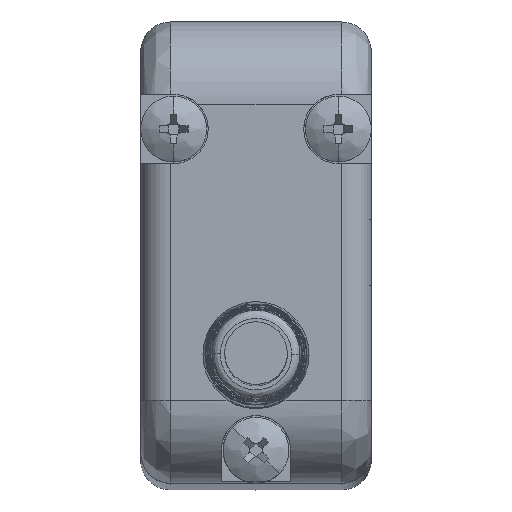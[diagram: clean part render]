
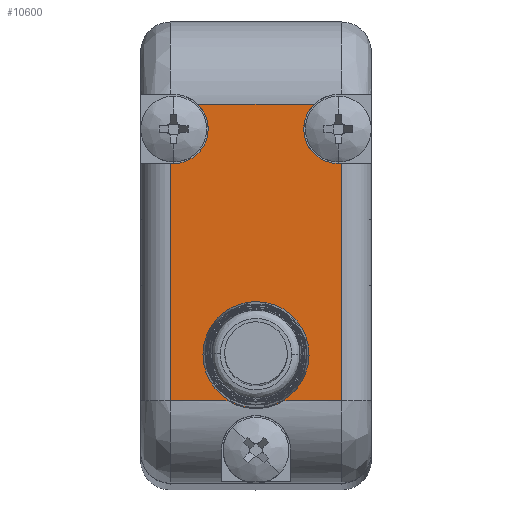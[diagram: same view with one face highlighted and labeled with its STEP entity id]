
A CAD part, top view. The second image highlights one B-rep face of the part: STEP entity #10600.
In plain terms, the highlighted planar face has unit normal (0, 0, 1).
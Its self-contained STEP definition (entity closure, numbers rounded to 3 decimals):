
#102 = CIRCLE ( 'NONE', #8923, 3.219 ) ;
#111 = CARTESIAN_POINT ( 'NONE',  ( 40.23, 16.075, 58.281 ) ) ;
#215 = CARTESIAN_POINT ( 'NONE',  ( 48.13, 16.075, 58.281 ) ) ;
#229 = EDGE_CURVE ( 'NONE', #956, #2554, #267, .T. ) ;
#267 = CIRCLE ( 'NONE', #10024, 3.275 ) ;
#406 = DIRECTION ( 'NONE',  ( -1., 0., 0. ) ) ;
#453 = AXIS2_PLACEMENT_3D ( 'NONE', #9389, #1258, #6682 ) ;
#525 = CARTESIAN_POINT ( 'NONE',  ( 43.13, 17.575, 58.281 ) ) ;
#534 = ORIENTED_EDGE ( 'NONE', *, *, #3012, .T. ) ;
#554 = CARTESIAN_POINT ( 'NONE',  ( 46.349, 2.34, 58.281 ) ) ;
#593 = EDGE_CURVE ( 'NONE', #2554, #10430, #7080, .T. ) ;
#749 = CARTESIAN_POINT ( 'NONE',  ( 43.13, -0.425, 58.281 ) ) ;
#825 = DIRECTION ( 'NONE',  ( 0., 0., -1. ) ) ;
#928 = EDGE_LOOP ( 'NONE', ( #7702, #534 ) ) ;
#956 = VERTEX_POINT ( 'NONE', #8032 ) ;
#1258 = DIRECTION ( 'NONE',  ( 0., 0., 1. ) ) ;
#1367 = CARTESIAN_POINT ( 'NONE',  ( 48.33, 8.575, 58.281 ) ) ;
#1553 = ORIENTED_EDGE ( 'NONE', *, *, #6454, .T. ) ;
#1667 = ORIENTED_EDGE ( 'NONE', *, *, #10301, .F. ) ;
#1808 = CARTESIAN_POINT ( 'NONE',  ( 38.13, 16.075, 58.281 ) ) ;
#1820 = DIRECTION ( 'NONE',  ( 0., 1., 0. ) ) ;
#1837 = AXIS2_PLACEMENT_3D ( 'NONE', #7377, #6533, #406 ) ;
#1905 = CARTESIAN_POINT ( 'NONE',  ( 43.13, 2.375, 58.281 ) ) ;
#1916 = VERTEX_POINT ( 'NONE', #554 ) ;
#2280 = ORIENTED_EDGE ( 'NONE', *, *, #10874, .T. ) ;
#2539 = DIRECTION ( 'NONE',  ( -1., 0., 0. ) ) ;
#2554 = VERTEX_POINT ( 'NONE', #7348 ) ;
#2614 = EDGE_CURVE ( 'NONE', #3171, #9569, #7488, .T. ) ;
#2675 = CARTESIAN_POINT ( 'NONE',  ( 43.13, 2.375, 58.281 ) ) ;
#2953 = LINE ( 'NONE', #6599, #9289 ) ;
#2983 = VECTOR ( 'NONE', #9785, 1000. ) ;
#3012 = EDGE_CURVE ( 'NONE', #1916, #10786, #11454, .T. ) ;
#3084 = LINE ( 'NONE', #1367, #11017 ) ;
#3136 = CARTESIAN_POINT ( 'NONE',  ( 49.13, 13.975, 58.281 ) ) ;
#3171 = VERTEX_POINT ( 'NONE', #5171 ) ;
#3435 = CARTESIAN_POINT ( 'NONE',  ( 48.33, -0.425, 58.281 ) ) ;
#3711 = FACE_OUTER_BOUND ( 'NONE', #6886, .T. ) ;
#3865 = DIRECTION ( 'NONE',  ( 0., 0., 1. ) ) ;
#4080 = VERTEX_POINT ( 'NONE', #4089 ) ;
#4089 = CARTESIAN_POINT ( 'NONE',  ( 38.13, 13.975, 58.281 ) ) ;
#4130 = VECTOR ( 'NONE', #9559, 1000. ) ;
#4340 = CARTESIAN_POINT ( 'NONE',  ( 39.599, 17.575, 58.281 ) ) ;
#4471 = CARTESIAN_POINT ( 'NONE',  ( 48.33, 13.975, 58.281 ) ) ;
#4519 = ORIENTED_EDGE ( 'NONE', *, *, #229, .F. ) ;
#4534 = CARTESIAN_POINT ( 'NONE',  ( 43.13, 2.375, 58.281 ) ) ;
#4844 = VERTEX_POINT ( 'NONE', #111 ) ;
#4865 = CIRCLE ( 'NONE', #5446, 2.1 ) ;
#5021 = LINE ( 'NONE', #525, #7382 ) ;
#5075 = LINE ( 'NONE', #3136, #2983 ) ;
#5093 = EDGE_CURVE ( 'NONE', #10786, #1916, #102, .T. ) ;
#5171 = CARTESIAN_POINT ( 'NONE',  ( 46.66, 17.575, 58.281 ) ) ;
#5242 = CIRCLE ( 'NONE', #453, 2.1 ) ;
#5393 = AXIS2_PLACEMENT_3D ( 'NONE', #1905, #5551, #9198 ) ;
#5446 = AXIS2_PLACEMENT_3D ( 'NONE', #1808, #10126, #11864 ) ;
#5497 = DIRECTION ( 'NONE',  ( 0., 0., -1. ) ) ;
#5551 = DIRECTION ( 'NONE',  ( 0., 0., -1. ) ) ;
#5767 = DIRECTION ( 'NONE',  ( -1., 0., 0. ) ) ;
#5926 = CARTESIAN_POINT ( 'NONE',  ( 48.13, 13.975, 58.281 ) ) ;
#6010 = CARTESIAN_POINT ( 'NONE',  ( 37.93, -0.425, 58.281 ) ) ;
#6360 = LINE ( 'NONE', #10007, #9448 ) ;
#6401 = VECTOR ( 'NONE', #2539, 1000. ) ;
#6454 = EDGE_CURVE ( 'NONE', #8829, #9569, #5075, .T. ) ;
#6533 = DIRECTION ( 'NONE',  ( 0., 0., -1. ) ) ;
#6587 = VERTEX_POINT ( 'NONE', #4340 ) ;
#6599 = CARTESIAN_POINT ( 'NONE',  ( 43.13, -0.425, 58.281 ) ) ;
#6682 = DIRECTION ( 'NONE',  ( 1., 0., 0. ) ) ;
#6874 = FACE_BOUND ( 'NONE', #928, .T. ) ;
#6886 = EDGE_LOOP ( 'NONE', ( #8775, #4519, #1667, #8598, #1553, #10548, #11330, #7441, #8280, #2280, #8157 ) ) ;
#6978 = CARTESIAN_POINT ( 'NONE',  ( 37.13, 13.975, 58.281 ) ) ;
#6993 = CARTESIAN_POINT ( 'NONE',  ( 39.91, 2.411, 58.281 ) ) ;
#7080 = LINE ( 'NONE', #749, #6401 ) ;
#7348 = CARTESIAN_POINT ( 'NONE',  ( 41.431, -0.425, 58.281 ) ) ;
#7377 = CARTESIAN_POINT ( 'NONE',  ( 48.33, -0.425, 58.281 ) ) ;
#7382 = VECTOR ( 'NONE', #7819, 1000. ) ;
#7441 = ORIENTED_EDGE ( 'NONE', *, *, #8607, .F. ) ;
#7488 = CIRCLE ( 'NONE', #8443, 2.1 ) ;
#7518 = DIRECTION ( 'NONE',  ( 1., 0., 0. ) ) ;
#7702 = ORIENTED_EDGE ( 'NONE', *, *, #5093, .T. ) ;
#7819 = DIRECTION ( 'NONE',  ( 1., 0., 0. ) ) ;
#7879 = DIRECTION ( 'NONE',  ( 0., -1., 0. ) ) ;
#8032 = CARTESIAN_POINT ( 'NONE',  ( 44.828, -0.425, 58.281 ) ) ;
#8157 = ORIENTED_EDGE ( 'NONE', *, *, #9170, .F. ) ;
#8280 = ORIENTED_EDGE ( 'NONE', *, *, #9387, .F. ) ;
#8443 = AXIS2_PLACEMENT_3D ( 'NONE', #215, #3865, #7518 ) ;
#8598 = ORIENTED_EDGE ( 'NONE', *, *, #10943, .F. ) ;
#8607 = EDGE_CURVE ( 'NONE', #4844, #6587, #5242, .T. ) ;
#8775 = ORIENTED_EDGE ( 'NONE', *, *, #593, .F. ) ;
#8829 = VERTEX_POINT ( 'NONE', #4471 ) ;
#8923 = AXIS2_PLACEMENT_3D ( 'NONE', #4534, #825, #9144 ) ;
#9068 = DIRECTION ( 'NONE',  ( -1., 0., 0. ) ) ;
#9144 = DIRECTION ( 'NONE',  ( -1., 0., 0. ) ) ;
#9170 = EDGE_CURVE ( 'NONE', #10430, #10648, #6360, .T. ) ;
#9198 = DIRECTION ( 'NONE',  ( -1., 0., 0. ) ) ;
#9289 = VECTOR ( 'NONE', #5767, 1000. ) ;
#9387 = EDGE_CURVE ( 'NONE', #4080, #4844, #4865, .T. ) ;
#9389 = CARTESIAN_POINT ( 'NONE',  ( 38.13, 16.075, 58.281 ) ) ;
#9448 = VECTOR ( 'NONE', #1820, 1000. ) ;
#9520 = PLANE ( 'NONE',  #1837 ) ;
#9559 = DIRECTION ( 'NONE',  ( -1., 0., 0. ) ) ;
#9569 = VERTEX_POINT ( 'NONE', #5926 ) ;
#9785 = DIRECTION ( 'NONE',  ( -1., 0., 0. ) ) ;
#10007 = CARTESIAN_POINT ( 'NONE',  ( 37.93, 8.575, 58.281 ) ) ;
#10024 = AXIS2_PLACEMENT_3D ( 'NONE', #2675, #5497, #9068 ) ;
#10126 = DIRECTION ( 'NONE',  ( 0., 0., 1. ) ) ;
#10136 = CARTESIAN_POINT ( 'NONE',  ( 37.93, 13.975, 58.281 ) ) ;
#10301 = EDGE_CURVE ( 'NONE', #11020, #956, #2953, .T. ) ;
#10430 = VERTEX_POINT ( 'NONE', #6010 ) ;
#10548 = ORIENTED_EDGE ( 'NONE', *, *, #2614, .F. ) ;
#10600 = ADVANCED_FACE ( 'NONE', ( #3711, #6874 ), #9520, .F. ) ;
#10648 = VERTEX_POINT ( 'NONE', #10136 ) ;
#10786 = VERTEX_POINT ( 'NONE', #6993 ) ;
#10874 = EDGE_CURVE ( 'NONE', #4080, #10648, #11285, .T. ) ;
#10943 = EDGE_CURVE ( 'NONE', #8829, #11020, #3084, .T. ) ;
#10971 = EDGE_CURVE ( 'NONE', #6587, #3171, #5021, .T. ) ;
#11017 = VECTOR ( 'NONE', #7879, 1000. ) ;
#11020 = VERTEX_POINT ( 'NONE', #3435 ) ;
#11285 = LINE ( 'NONE', #6978, #4130 ) ;
#11330 = ORIENTED_EDGE ( 'NONE', *, *, #10971, .F. ) ;
#11454 = CIRCLE ( 'NONE', #5393, 3.219 ) ;
#11864 = DIRECTION ( 'NONE',  ( 1., 0., 0. ) ) ;
